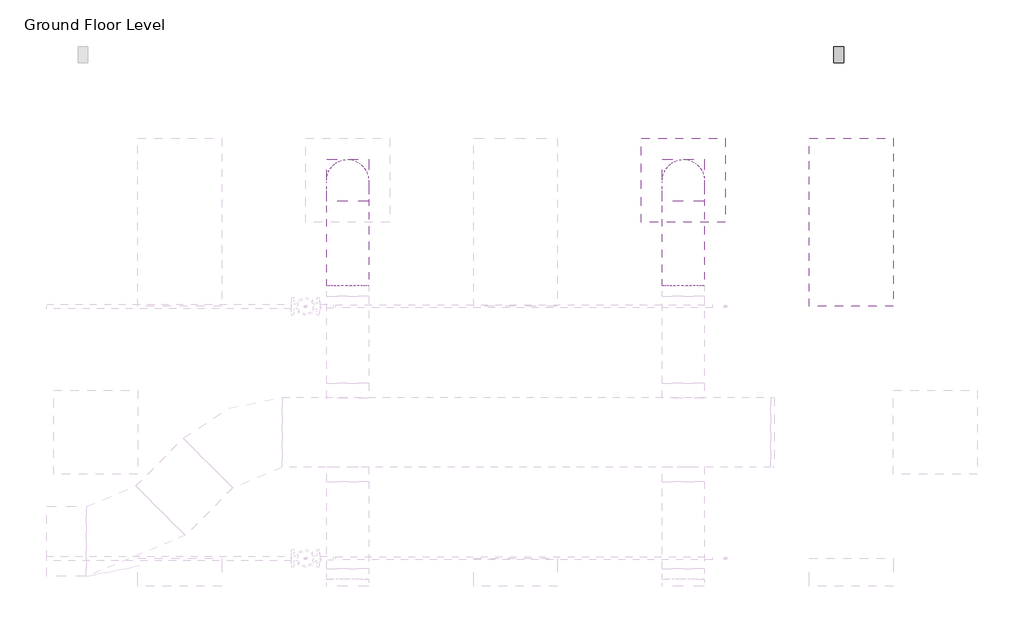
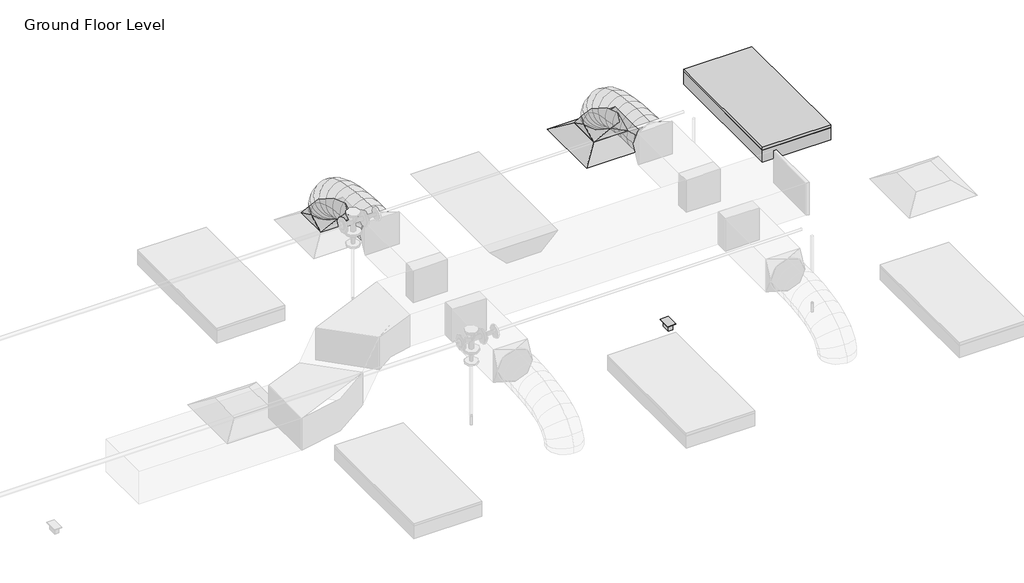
# One storey, part 74 of 74: 2 duct fittings, 2 duct segments, 1 air terminal, 1 light fixture, 1 proxy.
"""IFC4 building model written with IfcOpenShell, lengths in millimetres."""

from ifc_helpers import new_model, si_unit, frame, origin, place, context, project, spatial, circle_curve, ellipse_curve, transform, mapped, element, save
from ifc_brep_helpers import plane_surface, cylinder_surface, advanced_brep
from components import m_return_diffuser_600_x_600_face_300_x_300_connection_ff221211, m_duplex_receptacle_standard_10251bba, m_rectangular_to_round_transition_angle_45_degree_641efff0, m_troffer_light_parabolic_rectangular1_0600x1200mm_4_lamp_86473d4a

model = new_model("IFC4")

# Units and contexts
model_context = context("Model", 3, world=origin())
ifc_project = project(units=[si_unit("LENGTHUNIT", "METRE", prefix="MILLI")], contexts=[model_context])

# Site, building, storey
site = spatial("IfcSite", under=ifc_project)
building = spatial("IfcBuilding", under=site)
storey = spatial("IfcBuildingStorey", under=building, Name="Ground Floor Level", Elevation=900.0)

# Air terminal
placement = place(None, origin())
m_return_diffuser_600_x_600_face_300_x_300_connection_shape = m_return_diffuser_600_x_600_face_300_x_300_connection_ff221211(model_context)
element("IfcAirTerminal", 1, ObjectType="M_Supply Diffuser : 600 x 600 Face 300 x 300 Connection", at=placement, inside=storey, context=model_context, shape_type="MappedRepresentation", body=[
    mapped(m_return_diffuser_600_x_600_face_300_x_300_connection_shape, transform((13142.7672395, 20535.2153534, 3650.0), x_axis=(1.0, 0.0, 0.0), y_axis=(0.0, 1.0, 0.0), z_axis=(0.0, 0.0, 1.0))),
])

# Proxy
m_duplex_receptacle_standard_shape = m_duplex_receptacle_standard_10251bba(model_context)
element("IfcBuildingElementProxy", 2, Name="M_Duplex Receptacle : Standard", ObjectType="M_Duplex Receptacle : Standard", at=placement, inside=storey, context=model_context, shape_type="MappedRepresentation", body=[
    mapped(m_duplex_receptacle_standard_shape, transform((14252.7672395, 21435.2153534, 1000.0), x_axis=(-1.0, 0.0, 0.0), y_axis=(0.0, -1.0, 0.0), z_axis=(0.0, 0.0, 1.0))),
])

# Duct fittings
m_rectangular_to_round_transition_angle_45_degree_shape = m_rectangular_to_round_transition_angle_45_degree_641efff0(model_context)
element("IfcDuctFitting", 3, ObjectType="M_Rectangular to Round Transition - Angle : 45 Degree", at=placement, inside=storey, context=model_context, shape_type="MappedRepresentation", body=[
    mapped(m_rectangular_to_round_transition_angle_45_degree_shape, transform((10742.7672395, 20535.2153534, 3751.6), x_axis=(0.0, 0.0, 1.0), y_axis=(-1.0, 0.0, 0.0), z_axis=(0.0, -1.0, 0.0))),
])
element("IfcDuctFitting", 4, ObjectType="M_Rectangular to Round Transition - Angle : 45 Degree", at=placement, inside=storey, context=model_context, shape_type="MappedRepresentation", body=[
    mapped(m_rectangular_to_round_transition_angle_45_degree_shape, transform((13142.7672395, 20535.2153534, 3751.6), x_axis=(0.0, 0.0, 1.0), y_axis=(-1.0, 0.0, 0.0), z_axis=(0.0, -1.0, 0.0))),
])

# Duct segments
element("IfcDuctSegment", 5, ObjectType="Flex - Round", at=placement, inside=storey, context=model_context, shape_type="AdvancedBrep", body=[
    advanced_brep(
    [(10892.7672395, 20535.2153534, 3826.6), (10742.7672395, 20385.2153534, 3826.6), (10592.7672395, 20535.2153534, 3826.6), (10742.7672395, 20685.2153534, 3826.6), (10892.7672395, 20535.2153534, 3857.9377114), (10742.7672395, 20385.2153534, 3832.2944892), (10592.7672395, 20535.2153534, 3857.9377114), (10742.7672395, 20685.2153534, 3883.5809337), (10892.7672395, 20518.1994208, 3906.2505728), (10742.7672395, 20384.4614419, 3834.435049), (10592.7672395, 20518.1994208, 3906.2505728), (10742.7672395, 20651.9373998, 3978.0660967), (10892.7672395, 20471.0155405, 3968.7113131), (10742.7672395, 20366.8096412, 3857.8020236), (10592.7672395, 20471.0155405, 3968.7113131), (10742.7672395, 20575.2214397, 4079.6206026), (10892.7672395, 20399.4595883, 4016.0700639), (10742.7672395, 20330.5255327, 3881.8163788), (10592.7672395, 20399.4595883, 4016.0700639), (10742.7672395, 20468.3936439, 4150.3237489), (10892.7672395, 20309.3274403, 4050.4146682), (10742.7672395, 20265.7666771, 3906.4925606), (10592.7672395, 20309.3274403, 4050.4146682), (10742.7672395, 20352.8882035, 4194.3367758), (10892.7672395, 20206.4149725, 4073.8329691), (10742.7672395, 20179.8540485, 3926.0424542), (10592.7672395, 20206.4149725, 4073.8329691), (10742.7672395, 20232.9758965, 4221.6234841), (10892.7672395, 20096.5180607, 4088.4128097), (10742.7672395, 20081.3671584, 3939.1085462), (10592.7672395, 20096.5180607, 4088.4128097), (10742.7672395, 20111.6689631, 4237.7170733), (10892.7672395, 19985.4325811, 4096.242033), (10742.7672395, 19977.9272529, 3946.398915), (10592.7672395, 19985.4325811, 4096.242033), (10742.7672395, 19992.9379093, 4246.085151), (10892.7672395, 19878.9544096, 4099.4084821), (10742.7672395, 19876.2629165, 3949.4222102), (10592.7672395, 19878.9544096, 4099.4084821), (10742.7672395, 19881.6459027, 4249.394754), (10892.7672395, 19782.8794221, 4100.0), (10742.7672395, 19783.8029299, 4249.9971571), (10592.7672395, 19782.8794221, 4100.0), (10742.7672395, 19781.9559143, 3950.0028429)],
    [
        (0, 1, circle_curve(frame((10742.7672395, 20535.2153534, 3826.6), z_axis=(0.0, 0.0, -1.0), x_axis=(1.0, 0.0, 0.0)), 150.0)),
        (1, 2, circle_curve(frame((10742.7672395, 20535.2153534, 3826.6), z_axis=(0.0, 0.0, -1.0), x_axis=(1.0, 0.0, 0.0)), 150.0)),
        (2, 3, circle_curve(frame((10742.7672395, 20535.2153534, 3826.6), z_axis=(0.0, 0.0, -1.0), x_axis=(1.0, 0.0, 0.0)), 150.0)),
        (3, 0, circle_curve(frame((10742.7672395, 20535.2153534, 3826.6), z_axis=(0.0, 0.0, -1.0), x_axis=(1.0, 0.0, 0.0)), 150.0)),
        (0, 4),
        (4, 5, ellipse_curve(frame((10742.7672395, 20535.2153534, 3857.9377114), z_axis=(0.0, 0.16851014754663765, -0.9856999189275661), x_axis=(0.0, -0.985699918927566, -0.1685101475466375)), 152.176131, 150.0)),
        (5, 1),
        (5, 6, ellipse_curve(frame((10742.7672395, 20535.2153534, 3857.9377114), z_axis=(0.0, 0.16851014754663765, -0.9856999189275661), x_axis=(0.0, -0.985699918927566, -0.1685101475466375)), 152.176131, 150.0)),
        (6, 2),
        (6, 7, ellipse_curve(frame((10742.7672395, 20535.2153534, 3857.9377114), z_axis=(0.0, 0.16851014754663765, -0.9856999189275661), x_axis=(0.0, -0.985699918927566, -0.1685101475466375)), 152.176131, 150.0)),
        (7, 3),
        (7, 4, ellipse_curve(frame((10742.7672395, 20535.2153534, 3857.9377114), z_axis=(0.0, 0.16851014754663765, -0.9856999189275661), x_axis=(0.0, -0.985699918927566, -0.1685101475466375)), 152.176131, 150.0)),
        (4, 8),
        (8, 9, ellipse_curve(frame((10742.7672395, 20518.1994208, 3906.2505728), z_axis=(0.0, 0.4730922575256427, -0.881012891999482), x_axis=(0.0, -0.8810128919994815, -0.4730922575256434)), 151.8002519, 150.0)),
        (9, 5),
        (9, 10, ellipse_curve(frame((10742.7672395, 20518.1994208, 3906.2505728), z_axis=(0.0, 0.4730922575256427, -0.881012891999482), x_axis=(0.0, -0.8810128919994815, -0.4730922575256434)), 151.8002519, 150.0)),
        (10, 6),
        (10, 11, ellipse_curve(frame((10742.7672395, 20518.1994208, 3906.2505728), z_axis=(0.0, 0.4730922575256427, -0.881012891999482), x_axis=(0.0, -0.8810128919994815, -0.4730922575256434)), 151.8002519, 150.0)),
        (11, 7),
        (11, 8, ellipse_curve(frame((10742.7672395, 20518.1994208, 3906.2505728), z_axis=(0.0, 0.4730922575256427, -0.881012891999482), x_axis=(0.0, -0.8810128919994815, -0.4730922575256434)), 151.8002519, 150.0)),
        (8, 12),
        (12, 13, ellipse_curve(frame((10742.7672395, 20471.0155405, 3968.7113131), z_axis=(0.0, 0.7287877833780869, -0.68473963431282), x_axis=(0.0, -0.6847396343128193, -0.7287877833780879)), 152.1832446, 150.0)),
        (13, 9),
        (13, 14, ellipse_curve(frame((10742.7672395, 20471.0155405, 3968.7113131), z_axis=(0.0, 0.7287877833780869, -0.68473963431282), x_axis=(0.0, -0.6847396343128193, -0.7287877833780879)), 152.1832446, 150.0)),
        (14, 10),
        (14, 15, ellipse_curve(frame((10742.7672395, 20471.0155405, 3968.7113131), z_axis=(0.0, 0.7287877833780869, -0.68473963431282), x_axis=(0.0, -0.6847396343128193, -0.7287877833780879)), 152.1832446, 150.0)),
        (15, 11),
        (15, 12, ellipse_curve(frame((10742.7672395, 20471.0155405, 3968.7113131), z_axis=(0.0, 0.7287877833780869, -0.68473963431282), x_axis=(0.0, -0.6847396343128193, -0.7287877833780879)), 152.1832446, 150.0)),
        (12, 16),
        (16, 17, ellipse_curve(frame((10742.7672395, 20399.4595883, 4016.0700639), z_axis=(0.0, 0.8895859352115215, -0.45676784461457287), x_axis=(0.0, -0.45676784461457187, -0.889585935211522)), 150.91705, 150.0)),
        (17, 13),
        (17, 18, ellipse_curve(frame((10742.7672395, 20399.4595883, 4016.0700639), z_axis=(0.0, 0.8895859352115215, -0.45676784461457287), x_axis=(0.0, -0.45676784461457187, -0.889585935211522)), 150.91705, 150.0)),
        (18, 14),
        (18, 19, ellipse_curve(frame((10742.7672395, 20399.4595883, 4016.0700639), z_axis=(0.0, 0.8895859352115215, -0.45676784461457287), x_axis=(0.0, -0.45676784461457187, -0.889585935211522)), 150.91705, 150.0)),
        (19, 15),
        (19, 16, ellipse_curve(frame((10742.7672395, 20399.4595883, 4016.0700639), z_axis=(0.0, 0.8895859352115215, -0.45676784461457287), x_axis=(0.0, -0.45676784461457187, -0.889585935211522)), 150.91705, 150.0)),
        (16, 20),
        (20, 21, ellipse_curve(frame((10742.7672395, 20309.3274403, 4050.4146682), z_axis=(0.0, 0.9571203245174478, -0.2896906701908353), x_axis=(0.0, -0.28969067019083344, -0.9571203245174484)), 150.369921, 150.0)),
        (21, 17),
        (21, 22, ellipse_curve(frame((10742.7672395, 20309.3274403, 4050.4146682), z_axis=(0.0, 0.9571203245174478, -0.2896906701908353), x_axis=(0.0, -0.28969067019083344, -0.9571203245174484)), 150.369921, 150.0)),
        (22, 18),
        (22, 23, ellipse_curve(frame((10742.7672395, 20309.3274403, 4050.4146682), z_axis=(0.0, 0.9571203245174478, -0.2896906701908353), x_axis=(0.0, -0.28969067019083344, -0.9571203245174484)), 150.369921, 150.0)),
        (23, 19),
        (23, 20, ellipse_curve(frame((10742.7672395, 20309.3274403, 4050.4146682), z_axis=(0.0, 0.9571203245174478, -0.2896906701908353), x_axis=(0.0, -0.28969067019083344, -0.9571203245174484)), 150.369921, 150.0)),
        (20, 24),
        (24, 25, ellipse_curve(frame((10742.7672395, 20206.4149725, 4073.8329691), z_axis=(0.0, 0.9842313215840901, -0.17688613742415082), x_axis=(0.0, -0.17688613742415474, -0.9842313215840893)), 150.1583131, 150.0)),
        (25, 21),
        (25, 26, ellipse_curve(frame((10742.7672395, 20206.4149725, 4073.8329691), z_axis=(0.0, 0.9842313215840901, -0.17688613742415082), x_axis=(0.0, -0.17688613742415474, -0.9842313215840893)), 150.1583131, 150.0)),
        (26, 22),
        (26, 27, ellipse_curve(frame((10742.7672395, 20206.4149725, 4073.8329691), z_axis=(0.0, 0.9842313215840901, -0.17688613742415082), x_axis=(0.0, -0.17688613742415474, -0.9842313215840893)), 150.1583131, 150.0)),
        (27, 23),
        (27, 24, ellipse_curve(frame((10742.7672395, 20206.4149725, 4073.8329691), z_axis=(0.0, 0.9842313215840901, -0.17688613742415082), x_axis=(0.0, -0.17688613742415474, -0.9842313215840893)), 150.1583131, 150.0)),
        (24, 28),
        (28, 29, ellipse_curve(frame((10742.7672395, 20096.5180607, 4088.4128097), z_axis=(0.0, 0.9948906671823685, -0.10095821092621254), x_axis=(0.0, -0.10095821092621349, -0.9948906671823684)), 150.0710264, 150.0)),
        (29, 25),
        (29, 30, ellipse_curve(frame((10742.7672395, 20096.5180607, 4088.4128097), z_axis=(0.0, 0.9948906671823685, -0.10095821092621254), x_axis=(0.0, -0.10095821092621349, -0.9948906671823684)), 150.0710264, 150.0)),
        (30, 26),
        (30, 31, ellipse_curve(frame((10742.7672395, 20096.5180607, 4088.4128097), z_axis=(0.0, 0.9948906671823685, -0.10095821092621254), x_axis=(0.0, -0.10095821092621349, -0.9948906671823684)), 150.0710264, 150.0)),
        (31, 27),
        (31, 28, ellipse_curve(frame((10742.7672395, 20096.5180607, 4088.4128097), z_axis=(0.0, 0.9948906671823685, -0.10095821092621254), x_axis=(0.0, -0.10095821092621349, -0.9948906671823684)), 150.0710264, 150.0)),
        (28, 32),
        (32, 33, ellipse_curve(frame((10742.7672395, 19985.4325811, 4096.242033), z_axis=(0.0, 0.9987479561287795, -0.05002519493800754), x_axis=(0.0, -0.05002519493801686, -0.9987479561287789)), 150.0309634, 150.0)),
        (33, 29),
        (33, 34, ellipse_curve(frame((10742.7672395, 19985.4325811, 4096.242033), z_axis=(0.0, 0.9987479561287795, -0.05002519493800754), x_axis=(0.0, -0.05002519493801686, -0.9987479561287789)), 150.0309634, 150.0)),
        (34, 30),
        (34, 35, ellipse_curve(frame((10742.7672395, 19985.4325811, 4096.242033), z_axis=(0.0, 0.9987479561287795, -0.05002519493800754), x_axis=(0.0, -0.05002519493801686, -0.9987479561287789)), 150.0309634, 150.0)),
        (35, 31),
        (35, 32, ellipse_curve(frame((10742.7672395, 19985.4325811, 4096.242033), z_axis=(0.0, 0.9987479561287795, -0.05002519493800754), x_axis=(0.0, -0.05002519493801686, -0.9987479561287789)), 150.0309634, 150.0)),
        (32, 36),
        (36, 37, ellipse_curve(frame((10742.7672395, 19878.9544096, 4099.4084821), z_axis=(0.0, 0.9998390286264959, -0.017942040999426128), x_axis=(0.0, -0.017942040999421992, -0.999839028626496)), 150.0104193, 150.0)),
        (37, 33),
        (37, 38, ellipse_curve(frame((10742.7672395, 19878.9544096, 4099.4084821), z_axis=(0.0, 0.9998390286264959, -0.017942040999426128), x_axis=(0.0, -0.017942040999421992, -0.999839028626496)), 150.0104193, 150.0)),
        (38, 34),
        (38, 39, ellipse_curve(frame((10742.7672395, 19878.9544096, 4099.4084821), z_axis=(0.0, 0.9998390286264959, -0.017942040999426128), x_axis=(0.0, -0.017942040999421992, -0.999839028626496)), 150.0104193, 150.0)),
        (39, 35),
        (39, 36, ellipse_curve(frame((10742.7672395, 19878.9544096, 4099.4084821), z_axis=(0.0, 0.9998390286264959, -0.017942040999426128), x_axis=(0.0, -0.017942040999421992, -0.999839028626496)), 150.0104193, 150.0)),
        (40, 41, circle_curve(frame((10742.7672395, 19782.8794221, 4100.0), z_axis=(0.0, -0.9999810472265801, 0.006156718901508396), x_axis=(1.0, 0.0, 0.0)), 150.0)),
        (41, 42, circle_curve(frame((10742.7672395, 19782.8794221, 4100.0), z_axis=(0.0, -0.9999810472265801, 0.006156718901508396), x_axis=(1.0, 0.0, 0.0)), 150.0)),
        (42, 43, circle_curve(frame((10742.7672395, 19782.8794221, 4100.0), z_axis=(0.0, -0.9999810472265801, 0.006156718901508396), x_axis=(1.0, 0.0, 0.0)), 150.0)),
        (43, 40, circle_curve(frame((10742.7672395, 19782.8794221, 4100.0), z_axis=(0.0, -0.9999810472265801, 0.006156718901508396), x_axis=(1.0, 0.0, 0.0)), 150.0)),
        (36, 40),
        (43, 37),
        (42, 38),
        (41, 39),
    ],
    [
        plane_surface(frame((10742.7672395, 20385.2153534, 3826.6), z_axis=(0.0, 0.0, -1.0), x_axis=(1.0, 0.0, 0.0))),
        cylinder_surface(frame((10742.7672395, 20535.2153534, 3826.6), z_axis=(0.0, 0.0, -1.0), x_axis=(1.0, 0.0, 0.0)), 150.0),
        cylinder_surface(frame((10742.7672395, 20535.2153534, 3857.9377114), z_axis=(0.0, 0.33220087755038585, -0.9432086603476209), x_axis=(1.0, 0.0, 0.0)), 150.0),
        cylinder_surface(frame((10742.7672395, 20518.1994208, 3906.2505728), z_axis=(0.0, 0.6027625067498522, -0.7979206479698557), x_axis=(1.0, 0.0, 0.0)), 150.0),
        cylinder_surface(frame((10742.7672395, 20471.0155405, 3968.7113131), z_axis=(0.0, 0.833902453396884, -0.5519118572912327), x_axis=(1.0, 0.0, 0.0)), 150.0),
        cylinder_surface(frame((10742.7672395, 20399.4595883, 4016.0700639), z_axis=(0.0, 0.9344582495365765, -0.3560727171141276), x_axis=(1.0, 0.0, 0.0)), 150.0),
        cylinder_surface(frame((10742.7672395, 20309.3274403, 4050.4146682), z_axis=(0.0, 0.9750732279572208, -0.2218833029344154), x_axis=(1.0, 0.0, 0.0)), 150.0),
        cylinder_surface(frame((10742.7672395, 20206.4149725, 4073.8329691), z_axis=(0.0, 0.991314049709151, -0.13151598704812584), x_axis=(1.0, 0.0, 0.0)), 150.0),
        cylinder_surface(frame((10742.7672395, 20096.5180607, 4088.4128097), z_axis=(0.0, 0.9975255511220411, -0.07030487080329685), x_axis=(1.0, 0.0, 0.0)), 150.0),
        cylinder_surface(frame((10742.7672395, 19985.4325811, 4096.242033), z_axis=(0.0, 0.9995581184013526, -0.02972487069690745), x_axis=(1.0, 0.0, 0.0)), 150.0),
        plane_surface(frame((10742.7672395, 19781.9559143, 3950.0028429), z_axis=(0.0, -0.9999810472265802, 0.006156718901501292), x_axis=(1.0, 0.0, 0.0))),
        cylinder_surface(frame((10742.7672395, 19878.9544096, 4099.4084821), z_axis=(0.0, 0.9999810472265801, -0.006156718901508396), x_axis=(1.0, 0.0, 0.0)), 150.0),
    ],
    [
        (0, [[1, 2, 3, 4]]),
        (1, [[-1, 5, 6, 7]]),
        (1, [[-2, -7, 8, 9]]),
        (1, [[-3, -9, 10, 11]]),
        (1, [[-4, -11, 12, -5]]),
        (2, [[-6, 13, 14, 15]]),
        (2, [[-8, -15, 16, 17]]),
        (2, [[-10, -17, 18, 19]]),
        (2, [[-12, -19, 20, -13]]),
        (3, [[-14, 21, 22, 23]]),
        (3, [[-16, -23, 24, 25]]),
        (3, [[-18, -25, 26, 27]]),
        (3, [[-20, -27, 28, -21]]),
        (4, [[-22, 29, 30, 31]]),
        (4, [[-24, -31, 32, 33]]),
        (4, [[-26, -33, 34, 35]]),
        (4, [[-28, -35, 36, -29]]),
        (5, [[-30, 37, 38, 39]]),
        (5, [[-32, -39, 40, 41]]),
        (5, [[-34, -41, 42, 43]]),
        (5, [[-36, -43, 44, -37]]),
        (6, [[-38, 45, 46, 47]]),
        (6, [[-40, -47, 48, 49]]),
        (6, [[-42, -49, 50, 51]]),
        (6, [[-44, -51, 52, -45]]),
        (7, [[-46, 53, 54, 55]]),
        (7, [[-48, -55, 56, 57]]),
        (7, [[-50, -57, 58, 59]]),
        (7, [[-52, -59, 60, -53]]),
        (8, [[-54, 61, 62, 63]]),
        (8, [[-56, -63, 64, 65]]),
        (8, [[-58, -65, 66, 67]]),
        (8, [[-60, -67, 68, -61]]),
        (9, [[-62, 69, 70, 71]]),
        (9, [[-64, -71, 72, 73]]),
        (9, [[-66, -73, 74, 75]]),
        (9, [[-68, -75, 76, -69]]),
        (10, [[77, 78, 79, 80]]),
        (11, [[-70, 81, -80, 82]]),
        (11, [[-72, -82, -79, 83]]),
        (11, [[-74, -83, -78, 84]]),
        (11, [[-76, -84, -77, -81]]),
    ],
),
])
element("IfcDuctSegment", 6, ObjectType="Flex - Round", at=placement, inside=storey, context=model_context, shape_type="AdvancedBrep", body=[
    advanced_brep(
    [(13292.7672395, 20535.2153534, 3826.6), (13142.7672395, 20385.2153534, 3826.6), (12992.7672395, 20535.2153534, 3826.6), (13142.7672395, 20685.2153534, 3826.6), (13292.7672395, 20535.2153534, 3857.9377114), (13142.7672395, 20385.2153534, 3832.2944892), (12992.7672395, 20535.2153534, 3857.9377114), (13142.7672395, 20685.2153534, 3883.5809337), (13292.7672395, 20518.1994208, 3906.2505728), (13142.7672395, 20384.4614419, 3834.435049), (12992.7672395, 20518.1994208, 3906.2505728), (13142.7672395, 20651.9373998, 3978.0660967), (13292.7672395, 20471.0155405, 3968.7113131), (13142.7672395, 20366.8096412, 3857.8020236), (12992.7672395, 20471.0155405, 3968.7113131), (13142.7672395, 20575.2214397, 4079.6206026), (13292.7672395, 20399.4595883, 4016.0700639), (13142.7672395, 20330.5255327, 3881.8163788), (12992.7672395, 20399.4595883, 4016.0700639), (13142.7672395, 20468.3936439, 4150.3237489), (13292.7672395, 20309.3274403, 4050.4146682), (13142.7672395, 20265.7666771, 3906.4925606), (12992.7672395, 20309.3274403, 4050.4146682), (13142.7672395, 20352.8882035, 4194.3367758), (13292.7672395, 20206.4149725, 4073.8329691), (13142.7672395, 20179.8540485, 3926.0424542), (12992.7672395, 20206.4149725, 4073.8329691), (13142.7672395, 20232.9758965, 4221.6234841), (13292.7672395, 20096.5180607, 4088.4128097), (13142.7672395, 20081.3671584, 3939.1085462), (12992.7672395, 20096.5180607, 4088.4128097), (13142.7672395, 20111.6689631, 4237.7170733), (13292.7672395, 19985.4325811, 4096.242033), (13142.7672395, 19977.9272529, 3946.398915), (12992.7672395, 19985.4325811, 4096.242033), (13142.7672395, 19992.9379093, 4246.085151), (13292.7672395, 19878.9544096, 4099.4084821), (13142.7672395, 19876.2629165, 3949.4222102), (12992.7672395, 19878.9544096, 4099.4084821), (13142.7672395, 19881.6459027, 4249.394754), (13292.7672395, 19782.8794221, 4100.0), (13142.7672395, 19783.8029299, 4249.9971571), (12992.7672395, 19782.8794221, 4100.0), (13142.7672395, 19781.9559143, 3950.0028429)],
    [
        (0, 1, circle_curve(frame((13142.7672395, 20535.2153534, 3826.6), z_axis=(0.0, 0.0, -1.0), x_axis=(1.0, 0.0, 0.0)), 150.0)),
        (1, 2, circle_curve(frame((13142.7672395, 20535.2153534, 3826.6), z_axis=(0.0, 0.0, -1.0), x_axis=(1.0, 0.0, 0.0)), 150.0)),
        (2, 3, circle_curve(frame((13142.7672395, 20535.2153534, 3826.6), z_axis=(0.0, 0.0, -1.0), x_axis=(1.0, 0.0, 0.0)), 150.0)),
        (3, 0, circle_curve(frame((13142.7672395, 20535.2153534, 3826.6), z_axis=(0.0, 0.0, -1.0), x_axis=(1.0, 0.0, 0.0)), 150.0)),
        (0, 4),
        (4, 5, ellipse_curve(frame((13142.7672395, 20535.2153534, 3857.9377114), z_axis=(0.0, 0.16851014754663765, -0.9856999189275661), x_axis=(0.0, -0.985699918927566, -0.1685101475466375)), 152.176131, 150.0)),
        (5, 1),
        (5, 6, ellipse_curve(frame((13142.7672395, 20535.2153534, 3857.9377114), z_axis=(0.0, 0.16851014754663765, -0.9856999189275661), x_axis=(0.0, -0.985699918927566, -0.1685101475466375)), 152.176131, 150.0)),
        (6, 2),
        (6, 7, ellipse_curve(frame((13142.7672395, 20535.2153534, 3857.9377114), z_axis=(0.0, 0.16851014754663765, -0.9856999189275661), x_axis=(0.0, -0.985699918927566, -0.1685101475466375)), 152.176131, 150.0)),
        (7, 3),
        (7, 4, ellipse_curve(frame((13142.7672395, 20535.2153534, 3857.9377114), z_axis=(0.0, 0.16851014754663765, -0.9856999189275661), x_axis=(0.0, -0.985699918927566, -0.1685101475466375)), 152.176131, 150.0)),
        (4, 8),
        (8, 9, ellipse_curve(frame((13142.7672395, 20518.1994208, 3906.2505728), z_axis=(0.0, 0.4730922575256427, -0.881012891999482), x_axis=(0.0, -0.8810128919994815, -0.4730922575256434)), 151.8002519, 150.0)),
        (9, 5),
        (9, 10, ellipse_curve(frame((13142.7672395, 20518.1994208, 3906.2505728), z_axis=(0.0, 0.4730922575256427, -0.881012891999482), x_axis=(0.0, -0.8810128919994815, -0.4730922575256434)), 151.8002519, 150.0)),
        (10, 6),
        (10, 11, ellipse_curve(frame((13142.7672395, 20518.1994208, 3906.2505728), z_axis=(0.0, 0.4730922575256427, -0.881012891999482), x_axis=(0.0, -0.8810128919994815, -0.4730922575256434)), 151.8002519, 150.0)),
        (11, 7),
        (11, 8, ellipse_curve(frame((13142.7672395, 20518.1994208, 3906.2505728), z_axis=(0.0, 0.4730922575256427, -0.881012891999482), x_axis=(0.0, -0.8810128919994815, -0.4730922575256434)), 151.8002519, 150.0)),
        (8, 12),
        (12, 13, ellipse_curve(frame((13142.7672395, 20471.0155405, 3968.7113131), z_axis=(0.0, 0.7287877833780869, -0.68473963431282), x_axis=(0.0, -0.6847396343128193, -0.7287877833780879)), 152.1832446, 150.0)),
        (13, 9),
        (13, 14, ellipse_curve(frame((13142.7672395, 20471.0155405, 3968.7113131), z_axis=(0.0, 0.7287877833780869, -0.68473963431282), x_axis=(0.0, -0.6847396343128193, -0.7287877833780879)), 152.1832446, 150.0)),
        (14, 10),
        (14, 15, ellipse_curve(frame((13142.7672395, 20471.0155405, 3968.7113131), z_axis=(0.0, 0.7287877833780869, -0.68473963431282), x_axis=(0.0, -0.6847396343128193, -0.7287877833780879)), 152.1832446, 150.0)),
        (15, 11),
        (15, 12, ellipse_curve(frame((13142.7672395, 20471.0155405, 3968.7113131), z_axis=(0.0, 0.7287877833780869, -0.68473963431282), x_axis=(0.0, -0.6847396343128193, -0.7287877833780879)), 152.1832446, 150.0)),
        (12, 16),
        (16, 17, ellipse_curve(frame((13142.7672395, 20399.4595883, 4016.0700639), z_axis=(0.0, 0.8895859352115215, -0.45676784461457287), x_axis=(0.0, -0.45676784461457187, -0.889585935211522)), 150.91705, 150.0)),
        (17, 13),
        (17, 18, ellipse_curve(frame((13142.7672395, 20399.4595883, 4016.0700639), z_axis=(0.0, 0.8895859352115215, -0.45676784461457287), x_axis=(0.0, -0.45676784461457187, -0.889585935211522)), 150.91705, 150.0)),
        (18, 14),
        (18, 19, ellipse_curve(frame((13142.7672395, 20399.4595883, 4016.0700639), z_axis=(0.0, 0.8895859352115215, -0.45676784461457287), x_axis=(0.0, -0.45676784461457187, -0.889585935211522)), 150.91705, 150.0)),
        (19, 15),
        (19, 16, ellipse_curve(frame((13142.7672395, 20399.4595883, 4016.0700639), z_axis=(0.0, 0.8895859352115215, -0.45676784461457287), x_axis=(0.0, -0.45676784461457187, -0.889585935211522)), 150.91705, 150.0)),
        (16, 20),
        (20, 21, ellipse_curve(frame((13142.7672395, 20309.3274403, 4050.4146682), z_axis=(0.0, 0.9571203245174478, -0.2896906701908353), x_axis=(0.0, -0.28969067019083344, -0.9571203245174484)), 150.369921, 150.0)),
        (21, 17),
        (21, 22, ellipse_curve(frame((13142.7672395, 20309.3274403, 4050.4146682), z_axis=(0.0, 0.9571203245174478, -0.2896906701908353), x_axis=(0.0, -0.28969067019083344, -0.9571203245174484)), 150.369921, 150.0)),
        (22, 18),
        (22, 23, ellipse_curve(frame((13142.7672395, 20309.3274403, 4050.4146682), z_axis=(0.0, 0.9571203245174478, -0.2896906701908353), x_axis=(0.0, -0.28969067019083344, -0.9571203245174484)), 150.369921, 150.0)),
        (23, 19),
        (23, 20, ellipse_curve(frame((13142.7672395, 20309.3274403, 4050.4146682), z_axis=(0.0, 0.9571203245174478, -0.2896906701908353), x_axis=(0.0, -0.28969067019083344, -0.9571203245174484)), 150.369921, 150.0)),
        (20, 24),
        (24, 25, ellipse_curve(frame((13142.7672395, 20206.4149725, 4073.8329691), z_axis=(0.0, 0.9842313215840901, -0.17688613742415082), x_axis=(0.0, -0.17688613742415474, -0.9842313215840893)), 150.1583131, 150.0)),
        (25, 21),
        (25, 26, ellipse_curve(frame((13142.7672395, 20206.4149725, 4073.8329691), z_axis=(0.0, 0.9842313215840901, -0.17688613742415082), x_axis=(0.0, -0.17688613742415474, -0.9842313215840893)), 150.1583131, 150.0)),
        (26, 22),
        (26, 27, ellipse_curve(frame((13142.7672395, 20206.4149725, 4073.8329691), z_axis=(0.0, 0.9842313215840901, -0.17688613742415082), x_axis=(0.0, -0.17688613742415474, -0.9842313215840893)), 150.1583131, 150.0)),
        (27, 23),
        (27, 24, ellipse_curve(frame((13142.7672395, 20206.4149725, 4073.8329691), z_axis=(0.0, 0.9842313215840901, -0.17688613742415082), x_axis=(0.0, -0.17688613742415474, -0.9842313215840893)), 150.1583131, 150.0)),
        (24, 28),
        (28, 29, ellipse_curve(frame((13142.7672395, 20096.5180607, 4088.4128097), z_axis=(0.0, 0.9948906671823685, -0.10095821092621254), x_axis=(0.0, -0.10095821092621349, -0.9948906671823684)), 150.0710264, 150.0)),
        (29, 25),
        (29, 30, ellipse_curve(frame((13142.7672395, 20096.5180607, 4088.4128097), z_axis=(0.0, 0.9948906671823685, -0.10095821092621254), x_axis=(0.0, -0.10095821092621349, -0.9948906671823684)), 150.0710264, 150.0)),
        (30, 26),
        (30, 31, ellipse_curve(frame((13142.7672395, 20096.5180607, 4088.4128097), z_axis=(0.0, 0.9948906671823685, -0.10095821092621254), x_axis=(0.0, -0.10095821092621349, -0.9948906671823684)), 150.0710264, 150.0)),
        (31, 27),
        (31, 28, ellipse_curve(frame((13142.7672395, 20096.5180607, 4088.4128097), z_axis=(0.0, 0.9948906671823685, -0.10095821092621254), x_axis=(0.0, -0.10095821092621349, -0.9948906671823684)), 150.0710264, 150.0)),
        (28, 32),
        (32, 33, ellipse_curve(frame((13142.7672395, 19985.4325811, 4096.242033), z_axis=(0.0, 0.9987479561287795, -0.05002519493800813), x_axis=(0.0, -0.05002519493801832, -0.9987479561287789)), 150.0309634, 150.0)),
        (33, 29),
        (33, 34, ellipse_curve(frame((13142.7672395, 19985.4325811, 4096.242033), z_axis=(0.0, 0.9987479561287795, -0.05002519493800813), x_axis=(0.0, -0.05002519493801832, -0.9987479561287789)), 150.0309634, 150.0)),
        (34, 30),
        (34, 35, ellipse_curve(frame((13142.7672395, 19985.4325811, 4096.242033), z_axis=(0.0, 0.9987479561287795, -0.05002519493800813), x_axis=(0.0, -0.05002519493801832, -0.9987479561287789)), 150.0309634, 150.0)),
        (35, 31),
        (35, 32, ellipse_curve(frame((13142.7672395, 19985.4325811, 4096.242033), z_axis=(0.0, 0.9987479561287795, -0.05002519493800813), x_axis=(0.0, -0.05002519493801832, -0.9987479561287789)), 150.0309634, 150.0)),
        (32, 36),
        (36, 37, ellipse_curve(frame((13142.7672395, 19878.9544096, 4099.4084821), z_axis=(0.0, 0.9998390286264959, -0.01794204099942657), x_axis=(0.0, -0.01794204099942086, -0.999839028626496)), 150.0104193, 150.0)),
        (37, 33),
        (37, 38, ellipse_curve(frame((13142.7672395, 19878.9544096, 4099.4084821), z_axis=(0.0, 0.9998390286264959, -0.01794204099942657), x_axis=(0.0, -0.01794204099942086, -0.999839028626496)), 150.0104193, 150.0)),
        (38, 34),
        (38, 39, ellipse_curve(frame((13142.7672395, 19878.9544096, 4099.4084821), z_axis=(0.0, 0.9998390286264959, -0.01794204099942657), x_axis=(0.0, -0.01794204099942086, -0.999839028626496)), 150.0104193, 150.0)),
        (39, 35),
        (39, 36, ellipse_curve(frame((13142.7672395, 19878.9544096, 4099.4084821), z_axis=(0.0, 0.9998390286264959, -0.01794204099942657), x_axis=(0.0, -0.01794204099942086, -0.999839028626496)), 150.0104193, 150.0)),
        (40, 41, circle_curve(frame((13142.7672395, 19782.8794221, 4100.0), z_axis=(0.0, -0.9999810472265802, 0.006156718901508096), x_axis=(1.0, 0.0, 0.0)), 150.0)),
        (41, 42, circle_curve(frame((13142.7672395, 19782.8794221, 4100.0), z_axis=(0.0, -0.9999810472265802, 0.006156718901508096), x_axis=(1.0, 0.0, 0.0)), 150.0)),
        (42, 43, circle_curve(frame((13142.7672395, 19782.8794221, 4100.0), z_axis=(0.0, -0.9999810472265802, 0.006156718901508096), x_axis=(1.0, 0.0, 0.0)), 150.0)),
        (43, 40, circle_curve(frame((13142.7672395, 19782.8794221, 4100.0), z_axis=(0.0, -0.9999810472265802, 0.006156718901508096), x_axis=(1.0, 0.0, 0.0)), 150.0)),
        (36, 40),
        (43, 37),
        (42, 38),
        (41, 39),
    ],
    [
        plane_surface(frame((13142.7672395, 20385.2153534, 3826.6), z_axis=(0.0, 0.0, -1.0), x_axis=(1.0, 0.0, 0.0))),
        cylinder_surface(frame((13142.7672395, 20535.2153534, 3826.6), z_axis=(0.0, 0.0, -1.0), x_axis=(1.0, 0.0, 0.0)), 150.0),
        cylinder_surface(frame((13142.7672395, 20535.2153534, 3857.9377114), z_axis=(0.0, 0.33220087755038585, -0.9432086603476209), x_axis=(1.0, 0.0, 0.0)), 150.0),
        cylinder_surface(frame((13142.7672395, 20518.1994208, 3906.2505728), z_axis=(0.0, 0.6027625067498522, -0.7979206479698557), x_axis=(1.0, 0.0, 0.0)), 150.0),
        cylinder_surface(frame((13142.7672395, 20471.0155405, 3968.7113131), z_axis=(0.0, 0.833902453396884, -0.5519118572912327), x_axis=(1.0, 0.0, 0.0)), 150.0),
        cylinder_surface(frame((13142.7672395, 20399.4595883, 4016.0700639), z_axis=(0.0, 0.9344582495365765, -0.3560727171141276), x_axis=(1.0, 0.0, 0.0)), 150.0),
        cylinder_surface(frame((13142.7672395, 20309.3274403, 4050.4146682), z_axis=(0.0, 0.9750732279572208, -0.2218833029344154), x_axis=(1.0, 0.0, 0.0)), 150.0),
        cylinder_surface(frame((13142.7672395, 20206.4149725, 4073.8329691), z_axis=(0.0, 0.991314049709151, -0.13151598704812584), x_axis=(1.0, 0.0, 0.0)), 150.0),
        cylinder_surface(frame((13142.7672395, 20096.5180607, 4088.4128097), z_axis=(0.0, 0.9975255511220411, -0.07030487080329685), x_axis=(1.0, 0.0, 0.0)), 150.0),
        cylinder_surface(frame((13142.7672395, 19985.4325811, 4096.242033), z_axis=(0.0, 0.9995581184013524, -0.02972487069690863), x_axis=(1.0, 0.0, 0.0)), 150.0),
        plane_surface(frame((13142.7672395, 19781.9559143, 3950.0028429), z_axis=(0.0, -0.9999810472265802, 0.006156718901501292), x_axis=(1.0, 0.0, 0.0))),
        cylinder_surface(frame((13142.7672395, 19878.9544096, 4099.4084821), z_axis=(0.0, 0.9999810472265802, -0.006156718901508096), x_axis=(1.0, 0.0, 0.0)), 150.0),
    ],
    [
        (0, [[1, 2, 3, 4]]),
        (1, [[-1, 5, 6, 7]]),
        (1, [[-2, -7, 8, 9]]),
        (1, [[-3, -9, 10, 11]]),
        (1, [[-4, -11, 12, -5]]),
        (2, [[-6, 13, 14, 15]]),
        (2, [[-8, -15, 16, 17]]),
        (2, [[-10, -17, 18, 19]]),
        (2, [[-12, -19, 20, -13]]),
        (3, [[-14, 21, 22, 23]]),
        (3, [[-16, -23, 24, 25]]),
        (3, [[-18, -25, 26, 27]]),
        (3, [[-20, -27, 28, -21]]),
        (4, [[-22, 29, 30, 31]]),
        (4, [[-24, -31, 32, 33]]),
        (4, [[-26, -33, 34, 35]]),
        (4, [[-28, -35, 36, -29]]),
        (5, [[-30, 37, 38, 39]]),
        (5, [[-32, -39, 40, 41]]),
        (5, [[-34, -41, 42, 43]]),
        (5, [[-36, -43, 44, -37]]),
        (6, [[-38, 45, 46, 47]]),
        (6, [[-40, -47, 48, 49]]),
        (6, [[-42, -49, 50, 51]]),
        (6, [[-44, -51, 52, -45]]),
        (7, [[-46, 53, 54, 55]]),
        (7, [[-48, -55, 56, 57]]),
        (7, [[-50, -57, 58, 59]]),
        (7, [[-52, -59, 60, -53]]),
        (8, [[-54, 61, 62, 63]]),
        (8, [[-56, -63, 64, 65]]),
        (8, [[-58, -65, 66, 67]]),
        (8, [[-60, -67, 68, -61]]),
        (9, [[-62, 69, 70, 71]]),
        (9, [[-64, -71, 72, 73]]),
        (9, [[-66, -73, 74, 75]]),
        (9, [[-68, -75, 76, -69]]),
        (10, [[77, 78, 79, 80]]),
        (11, [[-70, 81, -80, 82]]),
        (11, [[-72, -82, -79, 83]]),
        (11, [[-74, -83, -78, 84]]),
        (11, [[-76, -84, -77, -81]]),
    ],
),
])

# Light fixture
m_troffer_light_parabolic_rectangular1_0600x1200mm_4_lamp_shape = m_troffer_light_parabolic_rectangular1_0600x1200mm_4_lamp_86473d4a(model_context)
element("IfcLightFixture", 7, ObjectType="M_Troffer Light - Parabolic Rectangular1 : 0600x1200mm(4 Lamp) - 277V 2", at=placement, inside=storey, context=model_context, shape_type="MappedRepresentation", body=[
    mapped(m_troffer_light_parabolic_rectangular1_0600x1200mm_4_lamp_shape, transform((14283.3013074, 20253.918855, 3650.0), x_axis=(0.0, 1.0, 0.0), y_axis=(-1.0, 0.0, 0.0), z_axis=(0.0, 0.0, 1.0))),
])

save(model, "model.ifc")
